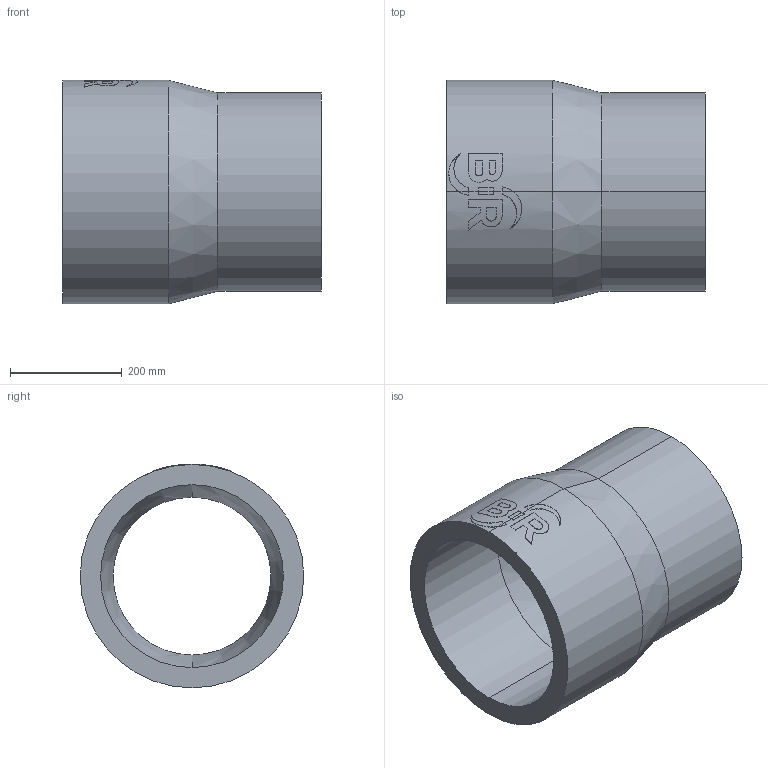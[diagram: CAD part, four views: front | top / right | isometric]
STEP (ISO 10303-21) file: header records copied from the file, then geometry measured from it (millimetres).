
FILE_DESCRIPTION (( 'STEP AP214' ), '1' );
FILE_NAME ('2323252415.STEP', '2018-07-20T10:11:36', ( '' ), ( '' ), 'SwSTEP 2.0', 'SolidWorks 2017', '' );
FILE_SCHEMA (( 'AUTOMOTIVE_DESIGN' ));
Length unit declared in the file: millimetre
Products named in the file (1): 2323252415
Bounding box: 463 x 400 x 400.46 mm (x, y, z)
Volume: 18129734.2 mm3; surface area: 1077085.1 mm2
Topology: 1 solids, 1 shells, 63 faces, 160 edges, 104 vertices
Faces by surface type: cylinder 31, plane 28, cone 4
Entity records: 3476 total; most frequent: CARTESIAN_POINT 1267, ORIENTED_EDGE 320, DIRECTION 296, EDGE_CURVE 160, AXIS2_PLACEMENT_3D 112, VERTEX_POINT 104, VECTOR 72, LINE 72
